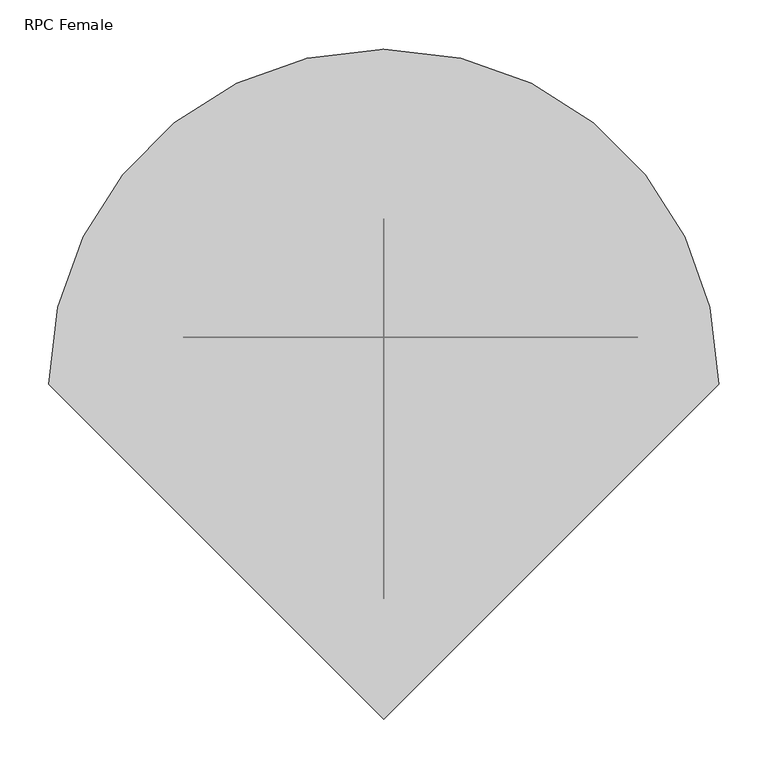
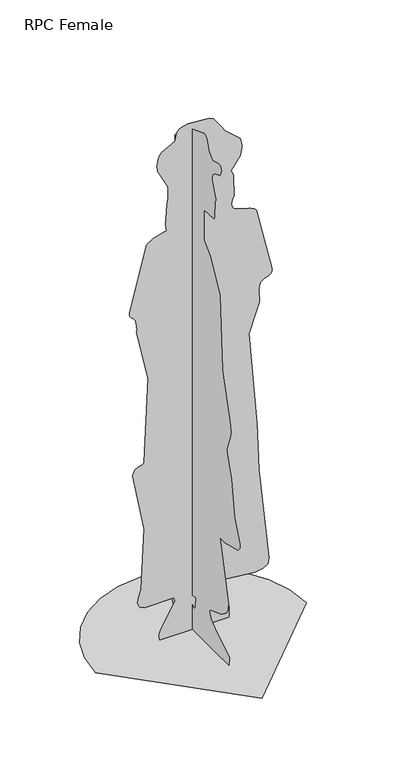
"""IFC4 building model written with IfcOpenShell, lengths in millimetres: proxy geometry, RPC Female : Tina."""

from ifc_helpers import new_model, si_unit, origin, place, context, project, spatial, triangles, source, transform, mapped, element, save


def rpc_female_936a91ee(model_context):
    return source(origin(), model_context, "Body", "Tessellation", [
        triangles([(119.4746024, 47.9851797, 38.3657269), (83.0886148, 47.9851797, 124.5051729), (83.0138374, 47.9851797, 136.8061299), (203.3585538, 47.9851751, 124.5967734), (228.5680434, 47.9851706, 128.329131), (244.5854705, 47.9851706, 139.121441), (247.7915793, 47.9851706, 159.148825), (216.0390116, 47.9851751, 471.099733), (209.7903923, 47.9851751, 633.4228918), (183.5555111, 47.9851751, 949.5239462), (203.8698598, 47.9851751, 1005.6493721), (217.070017, 47.9851751, 1047.2735756), (217.4083866, 47.9851706, 1056.0226055), (217.0055224, 47.9851751, 1064.6613224), (216.3185004, 47.9851751, 1073.2607248), (215.8053413, 47.9851751, 1081.8947908), (215.9203052, 47.9851751, 1090.6344463), (217.1204863, 47.9851751, 1099.5507626), (219.8629788, 47.9851706, 1108.7167002), (224.4103938, 47.9851706, 1115.2149227), (231.1179786, 47.9851706, 1119.4220787), (238.8976818, 47.9851706, 1122.5300285), (246.6605618, 47.9851706, 1125.7305599), (253.3176591, 47.9851706, 1130.2172047), (257.7819034, 47.9851706, 1137.1818232), (258.9624636, 47.9851706, 1147.8162031), (208.6911498, 47.9851751, 1362.8652134), (200.9254719, 47.9851751, 1370.8879795), (188.863799, 47.9851751, 1376.7655277), (174.3222992, 47.9851751, 1381.3783276), (159.1180856, 47.9851751, 1385.6033604), (145.0682618, 47.9851751, 1390.3226944), (133.9899228, 47.9851751, 1396.4143284), (127.6992275, 47.9851797, 1404.7577145), (126.3541607, 47.9851797, 1411.5830246), (128.3497965, 47.9851797, 1423.820359), (130.6183717, 47.9851751, 1429.1203262), (133.0196786, 47.9851751, 1433.7985291), (135.0181213, 47.9851751, 1437.799157), (133.6702475, 47.9851751, 1508.2801746), (130.0547342, 47.9851797, 1519.8473465), (124.9062748, 47.9851797, 1527.6429462), (155.2875963, 47.9851751, 1570.9468437), (160.9333272, 47.9851751, 1602.216156), (158.4198542, 47.9851751, 1619.8076694), (154.1621926, 47.9851751, 1629.1810799), (105.3565325, 47.9851797, 1672.8710003), (96.1467022, 47.9851797, 1688.204076), (68.7667873, 47.9851797, 1725.4903175), (55.188996, 47.9851797, 1733.4578545), (-13.8945541, 47.9851842, 1738.3893848), (-32.3179538, 47.9851842, 1734.7964355), (-43.8552446, 47.9851888, 1729.3150841), (-50.2795981, 47.9851888, 1722.1411034), (-56.6291742, 47.9851888, 1692.4206791), (-98.9749634, 47.9851888, 1670.8593498), (-105.122635, 47.9851888, 1663.7452492), (-109.692496, 47.9851888, 1653.3211761), (-114.0595259, 47.9851888, 1629.2249725), (-112.6097689, 47.9851888, 1608.9376934), (-83.4211617, 47.9851888, 1552.7197586), (-78.9718784, 47.9851888, 1541.6076462), (-78.7961533, 47.9851888, 1505.3964844), (-81.7470724, 47.9851888, 1484.4297409), (-87.7106074, 47.9851888, 1417.742823), (-84.5577838, 47.9851888, 1396.3797375), (-94.0555144, 47.9851888, 1393.929887), (-104.4290727, 47.9851888, 1391.1480801), (-115.0886601, 47.9851888, 1387.9241489), (-125.443524, 47.9851888, 1384.1517048), (-134.9057281, 47.9851933, 1379.7201439), (-142.8845289, 47.9851933, 1374.5230774), (-148.7929164, 47.9851933, 1368.4510643), (-204.6501356, 47.9851933, 1156.1950521), (-204.1388296, 47.9851933, 1148.5901384), (-202.0413195, 47.9851933, 1142.7341005), (-198.8511073, 47.9851933, 1138.1399042), (-195.0664001, 47.9851933, 1134.3234221), (-191.1816989, 47.9851933, 1130.7976925), (-187.6942483, 47.9851933, 1127.0793148), (-185.0994576, 47.9851933, 1122.6805281), (-182.0700095, 47.9851933, 1112.4219246), (-180.6408271, 47.9851933, 1101.7427073), (-180.2996415, 47.9851933, 1090.7111132), (-180.530514, 47.9851933, 1079.4000303), (-143.207011, 47.9851933, 910.4244432), (-157.1708389, 47.9851933, 628.3473295), (-159.6740291, 47.9851933, 622.3323624), (-164.457022, 47.9851933, 619.3833418), (-170.6897448, 47.9851933, 617.905525), (-177.5403441, 47.9851933, 616.306204), (-184.1759492, 47.9851933, 612.9907814), (-189.7665237, 47.9851933, 606.3635696), (-193.4783066, 47.9851933, 594.8328054), (-157.1708389, 47.9851933, 399.3335103), (-167.0209644, 47.9851933, 194.3290177), (-169.4288116, 47.9851933, 186.8839417), (-172.2367252, 47.9851933, 178.8920603), (-174.9072199, 47.9851933, 170.540299), (-176.9037914, 47.9851933, 162.0137664), (-177.6871011, 47.9851933, 153.5002962), (-176.7215169, 47.9851933, 145.1849971), (-169.586778, 47.9851933, 134.8759334), (-155.7790452, 47.9851933, 128.7095583), (-59.4221315, 47.9851888, 128.4272718), (-56.6291742, 47.9851888, 117.2563875), (-101.8137164, 47.9851888, 37.3721147), (-107.4482289, 47.9851888, 18.1869156), (-106.579868, 47.9851888, 0.0), (119.1848399, 47.9851797, 0.0), (0.0001119, 54.9526141, 116.0094705), (0.0001121, 60.1094851, 113.0529377), (0.0001122, 62.0593161, 108.0970356), (0.0001121, 60.01788, 100.4276273), (0.0001118, 53.2028118, 89.327787), (0.0001113, 44.8622735, 80.334813), (0.000111, 38.3650093, 77.9905248), (0.0001108, 33.5539884, 80.9825751), (0.0001106, 30.274978, 87.997672), (0.0001105, 28.0671617, 120.0493493), (0.0001166, 146.2769726, 6.9178889), (0.0001175, 162.7374504, 35.3007682), (0.0001176, 164.9162963, 41.8494396), (0.0001177, 166.2651057, 56.8797948), (0.0001176, 163.8385642, 70.5482556), (0.0001168, 149.0774012, 107.8250319), (0.0001167, 146.7153543, 120.4896022), (0.0001167, 148.1595067, 134.0131772), (0.0001174, 160.6203013, 134.9114508), (0.0001177, 167.0175489, 142.2088343), (0.0001178, 168.8972852, 153.9601882), (0.0001175, 162.8711087, 196.5003787), (0.0001174, 159.9987186, 373.2238758), (0.0001161, 135.8445243, 608.8527346), (0.0001162, 138.4767038, 634.7445408), (0.0001172, 157.6198485, 729.5666599), (0.0001172, 157.278663, 761.1135715), (0.000115, 115.0478559, 910.0384203), (0.0001159, 131.402717, 1267.9085094), (0.0001161, 136.0062332, 1279.6823547), (0.0001161, 135.2509741, 1291.9449783), (0.0001151, 116.6901702, 1339.5252136), (0.0001152, 117.680971, 1349.4584736), (0.0001158, 130.4455625, 1356.019265), (0.0001164, 141.4911909, 1365.0674046), (0.0001168, 149.9999739, 1376.6757076), (0.0001171, 155.1503045, 1390.9190243), (0.0001172, 156.1233556, 1407.8684258), (0.000117, 152.1002999, 1427.5975994), (0.0001149, 111.852039, 1516.4721165), (0.0001159, 131.1129545, 1509.7550846), (0.0001163, 139.0767943, 1509.2167454), (0.0001166, 146.2208895, 1510.6599712), (0.000117, 152.7630229, 1514.1615017), (0.0001173, 158.921913, 1519.7969135), (0.0001176, 164.9162963, 1527.6429462), (0.0001149, 111.852039, 1566.7424492), (0.0001151, 116.2414967, 1577.1785854), (0.0001165, 143.5849676, 1613.5468597), (0.0001167, 146.5237417, 1624.17281), (0.0001166, 145.366554, 1636.5634781), (0.0001134, 83.924365, 1700.7995281), (0.0001081, -16.6182319, 1739.8990311), (0.0001076, -26.3010313, 1738.9727795), (0.0001073, -33.3890412, 1728.6478283), (0.0001066, -46.2424218, 1696.3960178), (0.0001061, -55.2382026, 1682.7677799), (0.0001054, -68.0981281, 1676.3359051), (0.000104, -96.2931322, 1685.1905972), (0.0001035, -104.4298993, 1685.5785095), (0.0001032, -110.4663405, 1682.8799824), (0.000103, -114.0229639, 1677.5595222), (0.000103, -114.7165262, 1670.0845425), (0.0001031, -112.1656735, 1660.9186775), (0.0001035, -105.9899513, 1650.528178), (0.0001036, -103.0278138, 1647.7988388), (0.0001051, -75.2683935, 1636.5634781), (0.0001055, -66.247378, 1626.4553741), (0.0001057, -62.8907833, 1613.8730026), (0.0001057, -63.8451355, 1599.850312), (0.0001046, -83.6463206, 1549.9856232), (0.0001049, -78.0688267, 1540.9749813), (0.000105, -76.0376689, 1487.2693932), (0.0001052, -72.3529919, 1480.2656055), (0.0001081, -16.6182319, 1477.3715961), (0.0001081, -16.6182319, 1376.8290413), (0.000108, -18.9868203, 1370.1887489), (0.0001062, -52.9256984, 1337.7295383), (0.0001035, -106.1366992, 1240.4529179), (0.0001027, -121.4390628, 990.1572945), (0.0001003, -167.4321311, 829.4315672), (0.0001002, -168.6472641, 807.1813992), (0.0001003, -165.9197416, 788.9487185), (0.0001014, -145.2660968, 736.338703), (0.0001014, -145.0894361, 723.3030888), (0.0001, -173.0180366, 650.6890617), (9.92e-05, -188.1727075, 529.732128), (9.76e-05, -218.6998412, 452.8305356), (9.76e-05, -218.9812012, 439.9902583), (9.81e-05, -209.3245777, 427.2621108), (0.0001019, -135.0860223, 407.8011621), (0.0001035, -105.9890157, 407.7123957), (0.000101, -153.9291218, 211.1297364), (0.000101, -153.1813295, 187.819604), (0.0001016, -142.0497143, 170.5225493), (0.0001029, -116.6579502, 151.6738452), (0.000106, -57.8002783, 129.2423474), (0.0001064, -50.1327412, 128.4272718), (0.0001065, -47.3397885, 117.2563875), (0.000106, -57.0506329, 99.6892003), (0.0001045, -86.7954016, 72.5766065), (0.0001007, -158.9906406, 32.3862999), (0.0001006, -160.6077112, 29.508287), (0.0001006, -160.6591252, 24.7047421), (0.0001007, -159.8029275, 18.7813993), (0.0001007, -158.6924757, 12.5430548), (0.0001007, -157.9858146, 6.7963744), (0.0001007, -158.3382095, 2.3470907), (0.0001006, -160.4067424, 0.0), (0.0001165, 143.9840984, 0.0), (341.8443958, 0.0002001, 0.0), (332.8074838, 78.3281586, 0.0), (307.0689385, 150.2598054, 0.0), (266.6916975, 213.7350098, 0.0), (213.7349371, 266.6917701, 0.0), (150.2597327, 307.0690475, 0.0), (78.3280859, 332.8075928, 0.0), (0.0001269, 341.8445048, 0.0), (-78.3278316, 332.8075928, 0.0), (-150.2594784, 307.0690475, 0.0), (-213.7346828, 266.6918065, 0.0), (-266.6914431, 213.7350461, 0.0), (-307.0687205, 150.2598418, 0.0), (-332.8072658, 78.328195, 0.0), (-341.8441778, 0.0002359, 0.0), (9.11e-05, -341.8440688, 0.0)], [[108, 109, 110], [107, 108, 110], [107, 110, 1], [106, 107, 1], [106, 1, 2], [106, 2, 3], [105, 106, 3], [5, 6, 7], [4, 5, 7], [4, 7, 8], [3, 4, 8], [105, 3, 8], [104, 105, 8], [103, 104, 8], [102, 103, 8], [101, 102, 8], [100, 101, 8], [99, 100, 8], [98, 99, 8], [97, 98, 8], [96, 97, 8], [95, 96, 8], [95, 8, 9], [94, 95, 9], [93, 94, 9], [92, 93, 9], [91, 92, 9], [90, 91, 9], [89, 90, 9], [88, 89, 9], [87, 88, 9], [86, 87, 9], [86, 9, 10], [86, 10, 11], [85, 86, 11], [84, 85, 11], [84, 11, 12], [84, 12, 13], [84, 13, 14], [84, 14, 15], [84, 15, 16], [84, 16, 17], [83, 84, 17], [83, 17, 18], [82, 83, 18], [82, 18, 19], [81, 82, 19], [80, 81, 19], [80, 19, 20], [79, 80, 20], [78, 79, 20], [77, 78, 20], [76, 77, 20], [75, 76, 20], [74, 75, 20], [73, 74, 20], [72, 73, 20], [71, 72, 20], [70, 71, 20], [69, 70, 20], [68, 69, 20], [67, 68, 20], [66, 67, 20], [66, 20, 21], [66, 21, 22], [66, 22, 23], [66, 23, 24], [66, 24, 25], [66, 25, 26], [66, 26, 27], [66, 27, 28], [66, 28, 29], [66, 29, 30], [66, 30, 31], [66, 31, 32], [66, 32, 33], [66, 33, 34], [66, 34, 35], [65, 66, 35], [64, 65, 35], [64, 35, 36], [64, 36, 37], [63, 64, 37], [63, 37, 38], [63, 38, 39], [63, 39, 40], [63, 40, 41], [63, 41, 42], [62, 63, 42], [61, 62, 42], [61, 42, 43], [61, 43, 44], [61, 44, 45], [61, 45, 46], [61, 46, 47], [61, 47, 48], [60, 61, 48], [59, 60, 48], [58, 59, 48], [57, 58, 48], [56, 57, 48], [55, 56, 48], [55, 48, 49], [55, 49, 50], [55, 50, 51], [55, 51, 52], [55, 52, 53], [55, 53, 54], [218, 219, 220], [115, 123, 124], [115, 124, 125], [114, 115, 125], [114, 125, 126], [113, 114, 126], [113, 126, 127], [217, 218, 220], [155, 156, 157], [122, 123, 115], [122, 115, 116], [121, 122, 116], [216, 217, 220], [215, 216, 220], [214, 215, 220], [213, 214, 220], [212, 213, 220], [211, 212, 220], [210, 211, 220], [210, 220, 121], [209, 210, 121], [112, 113, 127], [112, 127, 128], [183, 184, 185], [180, 181, 182], [121, 116, 117], [209, 121, 117], [209, 117, 118], [209, 118, 119], [209, 119, 120], [208, 209, 120], [154, 155, 157], [153, 154, 157], [152, 153, 157], [151, 152, 157], [150, 151, 157], [163, 164, 165], [162, 163, 165], [162, 165, 166], [128, 129, 130], [128, 130, 131], [112, 128, 131], [112, 131, 132], [111, 112, 132], [120, 111, 132], [208, 120, 132], [208, 132, 133], [207, 208, 133], [206, 207, 133], [205, 206, 133], [204, 205, 133], [203, 204, 133], [202, 203, 133], [202, 133, 134], [182, 183, 185], [202, 134, 135], [180, 182, 185], [162, 166, 167], [161, 162, 167], [160, 161, 167], [159, 160, 167], [158, 159, 167], [157, 158, 167], [157, 167, 168], [150, 157, 168], [201, 202, 135], [200, 201, 135], [199, 200, 135], [198, 199, 135], [197, 198, 135], [196, 197, 135], [195, 196, 135], [195, 135, 136], [194, 195, 136], [194, 136, 137], [193, 194, 137], [192, 193, 137], [191, 192, 137], [191, 137, 138], [190, 191, 138], [190, 138, 139], [189, 190, 139], [188, 189, 139], [188, 139, 140], [188, 140, 141], [188, 141, 142], [187, 188, 142], [187, 142, 143], [186, 187, 143], [185, 186, 143], [185, 143, 144], [185, 144, 145], [185, 145, 146], [185, 146, 147], [185, 147, 148], [185, 148, 149], [185, 149, 150], [185, 150, 168], [170, 171, 172], [170, 172, 173], [169, 170, 173], [169, 173, 174], [169, 174, 175], [169, 175, 176], [168, 169, 176], [168, 176, 177], [168, 177, 178], [185, 168, 178], [185, 178, 179], [180, 185, 179], [235, 236, 221], [234, 235, 221], [234, 221, 222], [233, 234, 222], [233, 222, 223], [233, 223, 224], [232, 233, 224], [231, 232, 224], [231, 224, 225], [231, 225, 226], [231, 226, 227], [231, 227, 228], [231, 228, 229], [231, 229, 230]], closed=False),
    ])


if __name__ == "__main__":
    model = new_model("IFC4")
    model_context = context("Model", 3, world=origin())
    ifc_project = project(units=[si_unit("LENGTHUNIT", "METRE", prefix="MILLI")], contexts=[model_context])
    site = spatial("IfcSite", under=ifc_project)
    building = spatial("IfcBuilding", under=site)
    placement = place(None, origin())
    rpc_female_shape = rpc_female_936a91ee(model_context)
    element("IfcBuildingElementProxy", 1, Name="RPC Female : Tina", ObjectType="RPC Female : Tina", at=placement, inside=building, context=model_context, shape_type="MappedRepresentation", body=[
        mapped(rpc_female_shape, transform((0.0, 0.0, 0.0), x_axis=(1.0, 0.0, 0.0), y_axis=(0.0, 1.0, 0.0), z_axis=(0.0, 0.0, 1.0))),
    ])
    save(model, "model.ifc")
